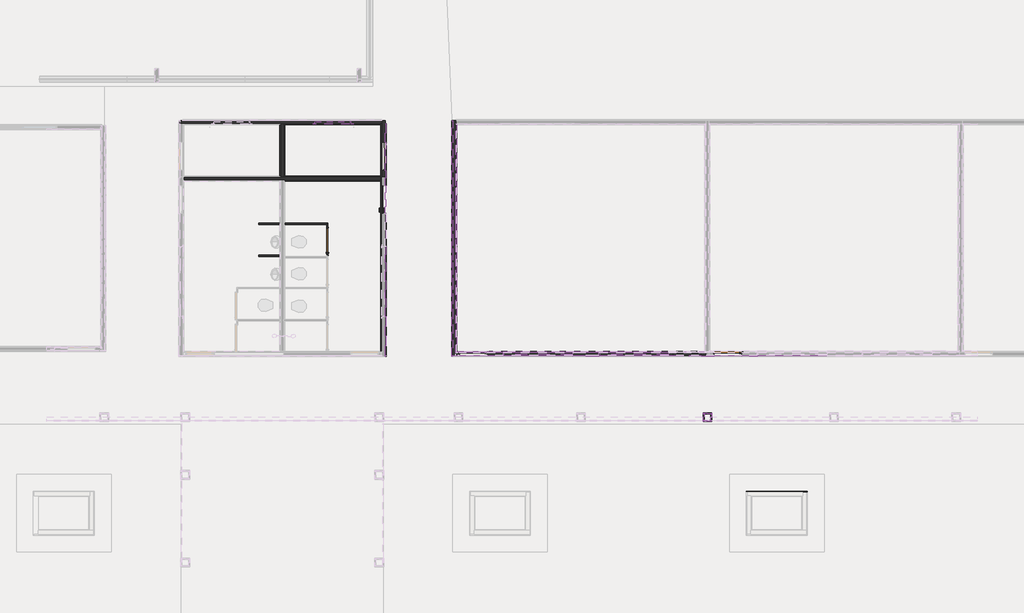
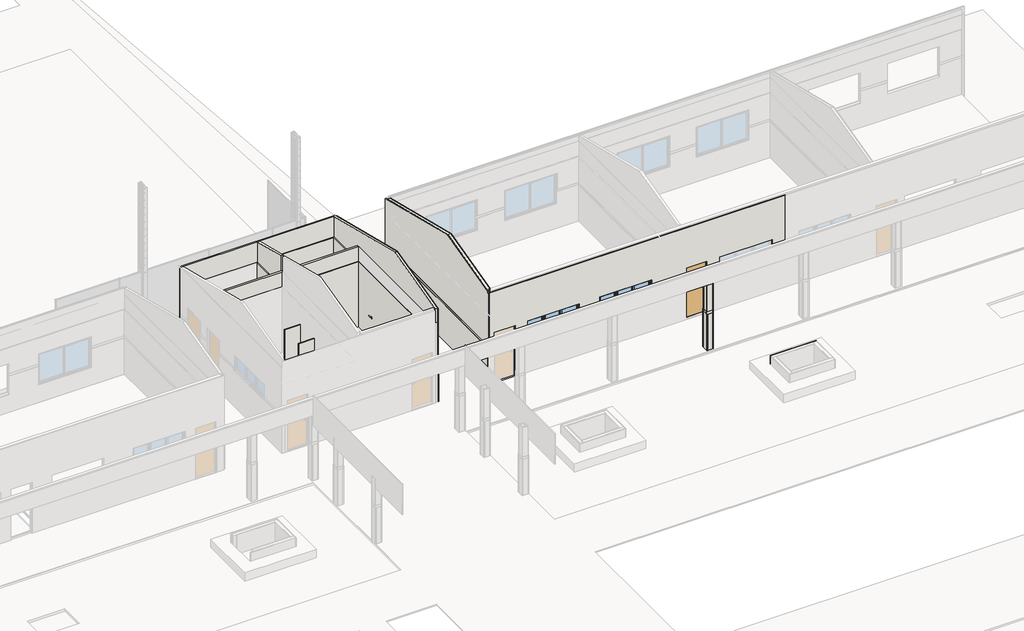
# One storey, part 16 of 28: 45 walls, 5 doors, 3 windows.
"""IFC4 building model written with IfcOpenShell, lengths in millimetres."""

from ifc_helpers import new_model, si_unit, frame, origin, place, context, project, spatial, polyline, outline, extrude, faceted_brep, transform, mapped, element, save
from components import door_29cd268e, door_1a2d8e3b, door_95b59213, pf15_l82cm_686caa18, pm71_l82cm_d3679378, window_1x60_2e2a47e2, window_2x60x220_bcaba8dd

model = new_model("IFC4")

# Units and contexts
model_context = context("Model", 3, world=origin())
ifc_project = project(units=[si_unit("LENGTHUNIT", "METRE", prefix="MILLI")], contexts=[model_context])

# Site, building, storey
site = spatial("IfcSite", under=ifc_project)
building = spatial("IfcBuilding", under=site)
storey = spatial("IfcBuildingStorey", under=building, Name="Térreo", Elevation=0.0)

# Doors
placement = place(None, origin())
door_shape = door_29cd268e(model_context)
element("IfcDoor", 1, ObjectType="FDE_RP02_Reforço : FDE_RP02_Reforço", at=placement, inside=storey, context=model_context, shape_type="MappedRepresentation", body=[
    mapped(door_shape, transform((-28005.0, 25324.0, 1165.0), x_axis=(0.0, 1.0, 0.0), y_axis=(-1.0, 0.0, 0.0), z_axis=(0.0, 0.0, 1.0))),
])
door_2_shape = door_1a2d8e3b(model_context)
element("IfcDoor", 2, ObjectType="FDE_PM_PortaBoxe : PM74_PortaBoxe_L0,62m", at=placement, inside=storey, context=model_context, shape_type="MappedRepresentation", body=[
    mapped(door_2_shape, transform((-29661.9219368, 24439.999998, 220.0), x_axis=(0.0, 1.0, 0.0), y_axis=(-1.0, 0.0, 0.0), z_axis=(0.0, 0.0, 1.0))),
])
door_3_shape = door_95b59213(model_context)
element("IfcDoor", 3, ObjectType="FDE_SO_Soleiras1 : SO14_SoleiraRampadaDesnívelAté2cm_L=14cm_Cimentado 2", at=placement, inside=storey, context=model_context, shape_type="MappedRepresentation", body=[
    mapped(door_3_shape, transform((-17779.0, 21100.0, 220.0), x_axis=(-1.0, 0.0, 0.0), y_axis=(0.0, -1.0, 0.0), z_axis=(0.0, 0.0, 1.0))),
])
pf15_l82cm_shape = pf15_l82cm_686caa18(model_context)
element("IfcDoor", 4, ObjectType="FDE_PF15_PF16_PF17_PortaemChapadeFerro : PF15_L82cm", at=placement, inside=storey, context=model_context, shape_type="MappedRepresentation", body=[
    mapped(pf15_l82cm_shape, transform((-17779.0, 21105.0, 220.0), x_axis=(-1.0, 0.0, 0.0), y_axis=(0.0, -1.0, 0.0), z_axis=(0.0, 0.0, 1.0))),
])
pm71_l82cm_shape = pm71_l82cm_d3679378(model_context)
element("IfcDoor", 5, ObjectType="FDE_PM70_PM71_PM72_PortadeMadeiraSarrafeada_BatenteMetálico : PM71_L82cm", at=placement, inside=storey, context=model_context, shape_type="MappedRepresentation", body=[
    mapped(pm71_l82cm_shape, transform((-27975.0, 25679.0, 115.0), x_axis=(0.0, 1.0, 0.0), y_axis=(-1.0, 0.0, 0.0), z_axis=(0.0, 0.0, 1.0))),
])

# Walls
element("IfcWall", 6, ObjectType="FDE_S712_AlvenariadeTijoloCerâmico/Baiano_Alvenaria_9cm - Existente", at=placement, inside=storey, context=model_context, shape_type="Brep", body=[
    faceted_brep([(-25830.0, 21060.0, 3500.0), (-25830.0, 21060.0, 0.0), (-25830.0, 21150.0, 0.0), (-25830.0, 27930.0, 0.0), (-25830.0, 28020.0, 0.0), (-25830.0, 28020.0, 3500.0), (-25830.0, 27930.0, 3500.0), (-25830.0, 21150.0, 3500.0), (-25920.0, 21060.0, 0.0), (-25920.0, 21060.0, 1731.0528047), (-25920.0, 21060.0, 1824.9435125), (-25920.0, 21060.0, 3500.0), (-25920.0, 28020.0, 3500.0), (-25920.0, 28020.0, 0.0)], [[[0, 1, 2, 3, 4, 5, 6, 7]], [[8, 9, 10, 11, 12, 13]], [[4, 3, 2, 1, 8, 13]], [[0, 7, 6, 5, 12, 11]], [[5, 4, 13, 12]], [[0, 11, 10, 9, 8, 1]]]),
])
element("IfcWall", 7, ObjectType="FDE_S712_AlvenariadeTijoloCerâmico/Baiano_Alvenaria_9cm - Existente", at=placement, inside=storey, context=model_context, shape_type="Brep", body=[
    faceted_brep([(-18425.0, 21150.0, 0.0), (-25830.0, 21150.0, 0.0), (-25830.0, 21150.0, 3500.0), (-18425.0, 21150.0, 3500.0), (-19521.0, 21150.0, 1665.0), (-19521.0, 21150.0, 2335.0), (-21591.0, 21150.0, 2335.0), (-21591.0, 21150.0, 1665.0), (-22361.0, 21150.0, 1665.0), (-22361.0, 21150.0, 2335.0), (-24431.0, 21150.0, 2335.0), (-24431.0, 21150.0, 1665.0), (-25730.0, 21150.0, 2312.0), (-25730.0, 21150.0, 200.0), (-24896.0, 21150.0, 200.0), (-24896.0, 21150.0, 2312.0), (-18565.0, 21150.0, 215.0), (-18565.0, 21150.0, 2327.0), (-19399.0, 21150.0, 2327.0), (-19399.0, 21150.0, 215.0), (-25830.0, 21060.0, 0.0), (-18425.0, 21060.0, 0.0), (-18425.0, 21060.0, 3500.0), (-25830.0, 21060.0, 3500.0), (-19521.0, 21060.0, 2335.0), (-19521.0, 21060.0, 1824.9435125), (-19521.0, 21060.0, 1665.0), (-21591.0, 21060.0, 1665.0), (-21591.0, 21060.0, 1824.9435125), (-21591.0, 21060.0, 2335.0), (-22361.0, 21060.0, 2335.0), (-22361.0, 21060.0, 1824.9435125), (-22361.0, 21060.0, 1665.0), (-24431.0, 21060.0, 1665.0), (-24431.0, 21060.0, 1824.9435125), (-24431.0, 21060.0, 2335.0), (-25730.0, 21060.0, 200.0), (-25730.0, 21060.0, 1824.9435125), (-25730.0, 21060.0, 2312.0), (-24896.0, 21060.0, 2312.0), (-24896.0, 21060.0, 1824.9435125), (-24896.0, 21060.0, 200.0), (-18565.0, 21060.0, 2327.0), (-18565.0, 21060.0, 215.0), (-19399.0, 21060.0, 215.0), (-19399.0, 21060.0, 2327.0)], [[[0, 1, 2, 3], [4, 5, 6, 7], [8, 9, 10, 11], [12, 13, 14, 15], [16, 17, 18, 19]], [[20, 21, 22, 23], [24, 25, 26, 27, 28, 29], [30, 31, 32, 33, 34, 35], [36, 37, 38, 39, 40, 41], [42, 43, 44, 45]], [[1, 0, 21, 20]], [[3, 2, 23, 22]], [[0, 3, 22, 21]], [[16, 43, 42, 17]], [[17, 42, 45, 18]], [[18, 45, 44, 19]], [[43, 16, 19, 44]], [[24, 5, 4, 26, 25]], [[5, 24, 29, 6]], [[6, 29, 28, 27, 7]], [[7, 27, 26, 4]], [[8, 32, 31, 30, 9]], [[9, 30, 35, 10]], [[10, 35, 34, 33, 11]], [[32, 8, 11, 33]], [[36, 13, 12, 38, 37]], [[38, 12, 15, 39]], [[39, 15, 14, 41, 40]], [[13, 36, 41, 14]], [[1, 20, 23, 2]]]),
])
element("IfcWall", 8, ObjectType="FDE_S712_AlvenariadeTijoloCerâmico/Baiano_Alvenaria_9cm - Existente", at=placement, inside=storey, context=model_context, shape_type="Brep", body=[
    faceted_brep([(-33930.0, 26255.0, 0.0), (-31020.0, 26255.0, 0.0), (-30930.0, 26255.0, 0.0), (-28020.0, 26255.0, 0.0), (-28020.0, 26255.0, 3500.0), (-30930.0, 26255.0, 3500.0), (-31020.0, 26255.0, 3500.0), (-33930.0, 26255.0, 3500.0), (-33930.0, 26345.0, 0.0), (-33930.0, 26345.0, 3500.0), (-28020.0, 26345.0, 3500.0), (-28020.0, 26345.0, 0.0)], [[[0, 1, 2, 3, 4, 5, 6, 7]], [[8, 9, 10, 11]], [[3, 2, 1, 0, 8, 11]], [[7, 6, 5, 4, 10, 9]], [[0, 7, 9, 8]], [[4, 3, 11, 10]]]),
])
element("IfcWall", 9, ObjectType="FDE_S712_AlvenariadeTijoloCerâmico/Baiano_Alvenaria_9cm - Existente", at=placement, inside=storey, context=model_context, shape_type="SweptSolid", body=[
    extrude(outline(polyline([(21150.0, 0.0), (21150.0, 4093.692274), (23811.6315073, 4759.1001508), (27930.0, 3729.5080277), (27930.0, 0.0), (21150.0, 0.0)])), frame((-25920.0, 0.0, 0.0), z_axis=(1.0, 0.0, 0.0), x_axis=(0.0, 1.0, 0.0)), (0.0, 0.0, 1.0), 90.0),
])
element("IfcWall", 10, ObjectType="FDE_S712_AlvenariadeTijoloCerâmico/Baiano_Alvenaria_9cm - Existente", at=placement, inside=storey, context=model_context, shape_type="Brep", body=[
    faceted_brep([(-34020.0, 27930.0, 0.0), (-33930.0, 27930.0, 0.0), (-31020.0, 27930.0, 0.0), (-30930.0, 27930.0, 0.0), (-28020.0, 27930.0, 0.0), (-28020.0, 27930.0, 3729.5080277), (-30930.0, 27930.0, 3729.5080277), (-31020.0, 27930.0, 3729.5080277), (-33930.0, 27930.0, 3729.5080277), (-34020.0, 27930.0, 3729.5080277), (-30010.0, 27930.0, 1665.0), (-30010.0, 27930.0, 2335.0), (-28940.0, 27930.0, 2335.0), (-28940.0, 27930.0, 1665.0), (-33010.0, 27930.0, 1665.0), (-33010.0, 27930.0, 2335.0), (-31940.0, 27930.0, 2335.0), (-31940.0, 27930.0, 1665.0), (-28020.0, 28020.0, 0.0), (-34020.0, 28020.0, 0.0), (-34020.0, 28020.0, 3693.3295728), (-34020.0, 28020.0, 3707.0080277), (-28020.0, 28020.0, 3707.0080277), (-28020.0, 28020.0, 1824.9435125), (-28020.0, 28020.0, 1731.0528047), (-30010.0, 28020.0, 2335.0), (-30010.0, 28020.0, 1824.9435125), (-30010.0, 28020.0, 1731.0528047), (-30010.0, 28020.0, 1665.0), (-28940.0, 28020.0, 1665.0), (-28940.0, 28020.0, 1731.0528047), (-28940.0, 28020.0, 1824.9435125), (-28940.0, 28020.0, 2335.0), (-33010.0, 28020.0, 2335.0), (-33010.0, 28020.0, 1824.9435125), (-33010.0, 28020.0, 1731.0528047), (-33010.0, 28020.0, 1665.0), (-31940.0, 28020.0, 1665.0), (-31940.0, 28020.0, 1731.0528047), (-31940.0, 28020.0, 1824.9435125), (-31940.0, 28020.0, 2335.0)], [[[0, 1, 2, 3, 4, 5, 6, 7, 8, 9], [10, 11, 12, 13], [14, 15, 16, 17]], [[18, 19, 20, 21, 22, 23, 24], [25, 26, 27, 28, 29, 30, 31, 32], [33, 34, 35, 36, 37, 38, 39, 40]], [[4, 3, 2, 1, 0, 19, 18]], [[9, 8, 7, 6, 5, 22, 21]], [[10, 28, 27, 26, 25, 11]], [[11, 25, 32, 12]], [[12, 32, 31, 30, 29, 13]], [[28, 10, 13, 29]], [[14, 36, 35, 34, 33, 15]], [[15, 33, 40, 16]], [[16, 40, 39, 38, 37, 17]], [[36, 14, 17, 37]], [[19, 0, 9, 21, 20]], [[4, 18, 24, 23, 22, 5]]]),
])
element("IfcWall", 11, ObjectType="FDE_S712_AlvenariadeTijoloCerâmico/Baiano_Alvenaria_9cm - Existente", at=placement, inside=storey, context=model_context, shape_type="Brep", body=[
    faceted_brep([(-31020.0, 27930.0, 0.0), (-31020.0, 26345.0, 0.0), (-31020.0, 26345.0, 4125.7580277), (-31020.0, 27930.0, 3729.5080277), (-31020.0, 27930.0, 2900.0), (-31020.0, 27930.0, 200.0), (-30930.0, 27930.0, 0.0), (-30930.0, 27930.0, 220.0), (-30930.0, 27930.0, 2900.0), (-30930.0, 27930.0, 3729.5080277), (-30930.0, 26345.0, 4125.7580277), (-30930.0, 26345.0, 0.0)], [[[0, 1, 2, 3, 4, 5]], [[6, 7, 8, 9, 10, 11]], [[1, 0, 6, 11]], [[0, 5, 4, 3, 9, 8, 7, 6]], [[3, 2, 10, 9]], [[2, 1, 11, 10]]]),
])
element("IfcWall", 12, ObjectType="FDE_S712_AlvenariadeTijoloCerâmico/Baiano_Alvenaria_9cm - Existente", at=placement, inside=storey, context=model_context, shape_type="Brep", body=[
    faceted_brep([(-28020.0, 28020.0, 0.0), (-28020.0, 27930.0, 0.0), (-28020.0, 21150.0, 0.0), (-28020.0, 21150.0, 131.0), (-28020.0, 21030.0, 131.0), (-28020.0, 21030.0, 1731.0528047), (-28020.0, 21045.0, 1731.0528047), (-28020.0, 21045.0, 4067.442274), (-28020.0, 23811.6315073, 4759.1001508), (-28020.0, 27930.0, 3729.5080277), (-28020.0, 28020.0, 3707.0080277), (-28020.0, 26548.0, 2327.0), (-28020.0, 26548.0, 215.0), (-28020.0, 27382.0, 215.0), (-28020.0, 27382.0, 2327.0), (-28020.0, 26096.0, 115.0), (-28020.0, 26096.0, 2227.0), (-28020.0, 25262.0, 2227.0), (-28020.0, 25262.0, 115.0), (-28020.0, 24285.0, 1665.0), (-28020.0, 24285.0, 2335.0), (-28020.0, 22215.0, 2335.0), (-28020.0, 22215.0, 1665.0), (-27930.0, 21150.0, 0.0), (-27930.0, 27930.0, 0.0), (-27930.0, 28020.0, 0.0), (-27930.0, 28020.0, 3707.0080277), (-27930.0, 27930.0, 3729.5080277), (-27930.0, 23811.6315073, 4759.1001508), (-27930.0, 21045.0, 4067.442274), (-27930.0, 21045.0, 1824.9435125), (-27930.0, 21045.0, 1731.0528047), (-27930.0, 21030.0, 1731.0528047), (-27930.0, 21030.0, 131.0), (-27930.0, 21150.0, 131.0), (-27930.0, 26548.0, 215.0), (-27930.0, 26548.0, 1700.0), (-27930.0, 26548.0, 1731.0528047), (-27930.0, 26548.0, 1824.9435125), (-27930.0, 26548.0, 2327.0), (-27930.0, 27382.0, 2327.0), (-27930.0, 27382.0, 1824.9435125), (-27930.0, 27382.0, 1731.0528047), (-27930.0, 27382.0, 1700.0), (-27930.0, 27382.0, 215.0), (-27930.0, 26096.0, 2227.0), (-27930.0, 26096.0, 1824.9435125), (-27930.0, 26096.0, 1731.0528047), (-27930.0, 26096.0, 1700.0), (-27930.0, 26096.0, 115.0), (-27930.0, 25262.0, 115.0), (-27930.0, 25262.0, 1700.0), (-27930.0, 25262.0, 1731.0528047), (-27930.0, 25262.0, 1824.9435125), (-27930.0, 25262.0, 2227.0), (-27930.0, 24285.0, 2335.0), (-27930.0, 24285.0, 1824.9435125), (-27930.0, 24285.0, 1731.0528047), (-27930.0, 24285.0, 1700.0), (-27930.0, 24285.0, 1665.0), (-27930.0, 22215.0, 1665.0), (-27930.0, 22215.0, 1700.0), (-27930.0, 22215.0, 1731.0528047), (-27930.0, 22215.0, 1824.9435125), (-27930.0, 22215.0, 2335.0)], [[[0, 1, 2, 3, 4, 5, 6, 7, 8, 9, 10], [11, 12, 13, 14], [15, 16, 17, 18], [19, 20, 21, 22]], [[23, 24, 25, 26, 27, 28, 29, 30, 31, 32, 33, 34], [35, 36, 37, 38, 39, 40, 41, 42, 43, 44], [45, 46, 47, 48, 49, 50, 51, 52, 53, 54], [55, 56, 57, 58, 59, 60, 61, 62, 63, 64]], [[2, 1, 0, 25, 24, 23]], [[35, 12, 11, 39, 38, 37, 36]], [[39, 11, 14, 40]], [[13, 44, 43, 42, 41, 40, 14]], [[12, 35, 44, 13]], [[15, 49, 48, 47, 46, 45, 16]], [[16, 45, 54, 17]], [[17, 54, 53, 52, 51, 50, 18]], [[49, 15, 18, 50]], [[26, 10, 9, 8, 28, 27]], [[7, 29, 28, 8]], [[19, 59, 58, 57, 56, 55, 20]], [[20, 55, 64, 21]], [[21, 64, 63, 62, 61, 60, 22]], [[59, 19, 22, 60]], [[4, 3, 34, 33]], [[2, 23, 34, 3]], [[10, 26, 25, 0]], [[31, 6, 5, 32]], [[29, 7, 6, 31, 30]], [[4, 33, 32, 5]]]),
])
element("IfcWall", 13, ObjectType="Revestimento Cerâmico 10x10cm", at=placement, inside=storey, context=model_context, shape_type="Brep", body=[
    faceted_brep([(-18460.0, 21180.0, 0.0), (-25800.0, 21180.0, 0.0), (-25830.0, 21180.0, 0.0), (-25830.0, 21180.0, 1730.538599), (-25800.0, 21180.0, 1730.538599), (-25730.0, 21180.0, 1730.538599), (-25730.0, 21180.0, 200.0), (-24896.0, 21180.0, 200.0), (-24896.0, 21180.0, 1730.538599), (-24431.0, 21180.0, 1730.538599), (-24431.0, 21180.0, 1665.0), (-22361.0, 21180.0, 1665.0), (-22361.0, 21180.0, 1730.538599), (-21591.0, 21180.0, 1730.538599), (-21591.0, 21180.0, 1665.0), (-19521.0, 21180.0, 1665.0), (-19521.0, 21180.0, 1730.538599), (-18460.0, 21180.0, 1730.538599), (-25830.0, 21150.0, 0.0), (-18460.0, 21150.0, 0.0), (-18460.0, 21150.0, 1730.538599), (-19521.0, 21150.0, 1730.538599), (-19521.0, 21150.0, 1665.0), (-21591.0, 21150.0, 1665.0), (-21591.0, 21150.0, 1730.538599), (-22361.0, 21150.0, 1730.538599), (-22361.0, 21150.0, 1665.0), (-24431.0, 21150.0, 1665.0), (-24431.0, 21150.0, 1730.538599), (-24896.0, 21150.0, 1730.538599), (-24896.0, 21150.0, 200.0), (-25730.0, 21150.0, 200.0), (-25730.0, 21150.0, 1730.538599), (-25830.0, 21150.0, 1730.538599)], [[[0, 1, 2, 3, 4, 5, 6, 7, 8, 9, 10, 11, 12, 13, 14, 15, 16, 17]], [[18, 19, 20, 21, 22, 23, 24, 25, 26, 27, 28, 29, 30, 31, 32, 33]], [[2, 1, 0, 19, 18]], [[20, 17, 16, 21]], [[3, 33, 32, 5, 4]], [[8, 29, 28, 9]], [[24, 13, 12, 25]], [[0, 17, 20, 19]], [[3, 2, 18, 33]], [[31, 6, 5, 32]], [[7, 30, 29, 8]], [[6, 31, 30, 7]], [[15, 22, 21, 16]], [[23, 14, 13, 24]], [[22, 15, 14, 23]], [[11, 26, 25, 12]], [[27, 10, 9, 28]], [[26, 11, 10, 27]]]),
])
element("IfcWall", 14, ObjectType="Revestimento Cerâmico 10x10cm", at=placement, inside=storey, context=model_context, shape_type="Brep", body=[
    faceted_brep([(-25800.0, 21180.0, 0.0), (-25800.0, 27900.0, 0.0), (-25800.0, 27930.0, 0.0), (-25800.0, 27930.0, 1730.538599), (-25800.0, 27900.0, 1730.538599), (-25800.0, 21180.0, 1730.538599), (-25830.0, 21180.0, 0.0), (-25830.0, 21180.0, 1730.538599), (-25830.0, 27930.0, 1730.538599), (-25830.0, 27930.0, 0.0)], [[[0, 1, 2, 3, 4, 5]], [[6, 7, 8, 9]], [[2, 1, 0, 6, 9]], [[5, 4, 3, 8, 7]], [[0, 5, 7, 6]], [[3, 2, 9, 8]]]),
])
element("IfcWall", 15, ObjectType="Pardes Internas_Pintura Acrílica Branco Neve 2", at=placement, inside=storey, context=model_context, shape_type="Brep", body=[
    faceted_brep([(-25799.0, 21181.0, 2900.8), (-18425.0, 21181.0, 2900.8), (-18425.0, 21181.0, 2900.0), (-18425.0, 21181.0, 1824.9435125), (-18456.0, 21181.0, 1824.9435125), (-19521.0, 21181.0, 1824.9435125), (-19521.0, 21181.0, 2335.0), (-21591.0, 21181.0, 2335.0), (-21591.0, 21181.0, 1824.9435125), (-22361.0, 21181.0, 1824.9435125), (-22361.0, 21181.0, 2335.0), (-24431.0, 21181.0, 2335.0), (-24431.0, 21181.0, 1824.9435125), (-24896.0, 21181.0, 1824.9435125), (-24896.0, 21181.0, 2312.0), (-25730.0, 21181.0, 2312.0), (-25730.0, 21181.0, 1824.9435125), (-25799.0, 21181.0, 1824.9435125), (-18425.0, 21150.0, 2900.8), (-25799.0, 21150.0, 2900.8), (-25799.0, 21150.0, 1824.9435125), (-25730.0, 21150.0, 1824.9435125), (-25730.0, 21150.0, 2312.0), (-24896.0, 21150.0, 2312.0), (-24896.0, 21150.0, 1824.9435125), (-24431.0, 21150.0, 1824.9435125), (-24431.0, 21150.0, 2335.0), (-22361.0, 21150.0, 2335.0), (-22361.0, 21150.0, 1824.9435125), (-21591.0, 21150.0, 1824.9435125), (-21591.0, 21150.0, 2335.0), (-19521.0, 21150.0, 2335.0), (-19521.0, 21150.0, 1824.9435125), (-18425.0, 21150.0, 1824.9435125)], [[[0, 1, 2, 3, 4, 5, 6, 7, 8, 9, 10, 11, 12, 13, 14, 15, 16, 17]], [[18, 19, 20, 21, 22, 23, 24, 25, 26, 27, 28, 29, 30, 31, 32, 33]], [[3, 33, 32, 5, 4]], [[20, 17, 16, 21]], [[24, 13, 12, 25]], [[8, 29, 28, 9]], [[1, 0, 19, 18]], [[0, 17, 20, 19]], [[3, 2, 1, 18, 33]], [[15, 22, 21, 16]], [[22, 15, 14, 23]], [[23, 14, 13, 24]], [[31, 6, 5, 32]], [[6, 31, 30, 7]], [[7, 30, 29, 8]], [[27, 10, 9, 28]], [[10, 27, 26, 11]], [[11, 26, 25, 12]]]),
])
element("IfcWall", 16, ObjectType="Faixa - Revestimento Cerâmico Verde Folha 10x10cm", at=placement, inside=storey, context=model_context, shape_type="Brep", body=[
    faceted_brep([(-25830.0, 27930.0, 1731.0528047), (-25830.0, 21165.0, 1731.0528047), (-25830.0, 21165.0, 1824.9435125), (-25830.0, 27930.0, 1824.9435125), (-25800.0, 27930.0, 1731.0528047), (-25800.0, 27930.0, 1824.9435125), (-25800.0, 27900.0, 1824.9435125), (-25800.0, 21165.0, 1824.9435125), (-25800.0, 21165.0, 1731.0528047), (-25800.0, 27900.0, 1731.0528047)], [[[0, 1, 2, 3]], [[4, 5, 6, 7, 8, 9]], [[1, 0, 4, 9, 8]], [[2, 1, 8, 7]], [[3, 2, 7, 6, 5]], [[0, 3, 5, 4]]]),
])
element("IfcWall", 17, ObjectType="Pardes Internas_Pintura Acrílica Branco Neve 2", at=placement, inside=storey, context=model_context, shape_type="Brep", body=[
    faceted_brep([(-25830.0, 27930.0, 1824.9435125), (-25830.0, 21150.0, 1824.9435125), (-25830.0, 21150.0, 4093.692274), (-25830.0, 23811.6315073, 4759.1001508), (-25830.0, 27930.0, 3729.5080277), (-25799.0, 27930.0, 1824.9435125), (-25799.0, 27930.0, 2900.0), (-25799.0, 27930.0, 3729.5080277), (-25799.0, 23811.6315073, 4759.1001508), (-25799.0, 21150.0, 4093.692274), (-25799.0, 21150.0, 2900.8), (-25799.0, 21150.0, 1824.9435125), (-25799.0, 21181.0, 1824.9435125), (-25799.0, 27899.0, 1824.9435125)], [[[0, 1, 2, 3, 4]], [[5, 6, 7, 8, 9, 10, 11, 12, 13]], [[1, 0, 5, 13, 12, 11]], [[4, 3, 8, 7]], [[3, 2, 9, 8]], [[2, 1, 11, 10, 9]], [[0, 4, 7, 6, 5]]]),
])
element("IfcWall", 18, ObjectType="Pardes Externas_Pintura Acrílica Branco Neve", at=placement, inside=storey, context=model_context, shape_type="Brep", body=[
    faceted_brep([(-14315.0, 21039.0, 1824.9435125), (-14315.0, 21039.0, 4013.8205229), (-25920.0, 21039.0, 4013.8205229), (-25920.0, 21039.0, 1824.9435125), (-25730.0, 21039.0, 1824.9435125), (-25730.0, 21039.0, 2312.0), (-24896.0, 21039.0, 2312.0), (-24896.0, 21039.0, 1824.9435125), (-24431.0, 21039.0, 1824.9435125), (-24431.0, 21039.0, 2335.0), (-22361.0, 21039.0, 2335.0), (-22361.0, 21039.0, 1824.9435125), (-21591.0, 21039.0, 1824.9435125), (-21591.0, 21039.0, 2335.0), (-19521.0, 21039.0, 2335.0), (-19521.0, 21039.0, 1824.9435125), (-18196.0, 21039.0, 1824.9435125), (-18196.0, 21039.0, 2332.0), (-17362.0, 21039.0, 2332.0), (-17362.0, 21039.0, 1824.9435125), (-16897.0, 21039.0, 1824.9435125), (-16897.0, 21039.0, 2335.0), (-14827.0, 21039.0, 2335.0), (-14827.0, 21039.0, 1824.9435125), (-14315.0, 21060.0, 4013.8205229), (-14315.0, 21060.0, 1824.9435125), (-14827.0, 21060.0, 1824.9435125), (-14827.0, 21060.0, 2335.0), (-16897.0, 21060.0, 2335.0), (-16897.0, 21060.0, 1824.9435125), (-17362.0, 21060.0, 1824.9435125), (-17362.0, 21060.0, 2332.0), (-18196.0, 21060.0, 2332.0), (-18196.0, 21060.0, 1824.9435125), (-18920.0, 21060.0, 1824.9435125), (-19521.0, 21060.0, 1824.9435125), (-19521.0, 21060.0, 2335.0), (-21591.0, 21060.0, 2335.0), (-21591.0, 21060.0, 1824.9435125), (-22361.0, 21060.0, 1824.9435125), (-22361.0, 21060.0, 2335.0), (-24431.0, 21060.0, 2335.0), (-24431.0, 21060.0, 1824.9435125), (-24896.0, 21060.0, 1824.9435125), (-24896.0, 21060.0, 2312.0), (-25730.0, 21060.0, 2312.0), (-25730.0, 21060.0, 1824.9435125), (-25920.0, 21060.0, 1824.9435125), (-25920.0, 21060.0, 4013.8205229)], [[[0, 1, 2, 3, 4, 5, 6, 7, 8, 9, 10, 11, 12, 13, 14, 15, 16, 17, 18, 19, 20, 21, 22, 23]], [[24, 25, 26, 27, 28, 29, 30, 31, 32, 33, 34, 35, 36, 37, 38, 39, 40, 41, 42, 43, 44, 45, 46, 47, 48]], [[4, 3, 47, 46]], [[25, 0, 23, 26]], [[7, 43, 42, 8]], [[11, 39, 38, 12]], [[33, 16, 15, 35, 34]], [[19, 30, 29, 20]], [[1, 0, 25, 24]], [[2, 1, 24, 48]], [[45, 5, 4, 46]], [[5, 45, 44, 6]], [[6, 44, 43, 7]], [[32, 17, 16, 33]], [[17, 32, 31, 18]], [[18, 31, 30, 19]], [[10, 40, 39, 11]], [[40, 10, 9, 41]], [[41, 9, 8, 42]], [[14, 36, 35, 15]], [[36, 14, 13, 37]], [[37, 13, 12, 38]], [[22, 27, 26, 23]], [[27, 22, 21, 28]], [[28, 21, 20, 29]], [[2, 48, 47, 3]]]),
])
element("IfcWall", 19, ObjectType="Revestimento Cerâmico 10x10cm", at=placement, inside=storey, context=model_context, shape_type="Brep", body=[
    faceted_brep([(-27900.0, 21150.0, 0.0), (-27900.0, 27930.0, 0.0), (-27900.0, 27930.0, 1731.0528047), (-27900.0, 27382.0, 1731.0528047), (-27900.0, 27382.0, 215.0), (-27900.0, 26548.0, 215.0), (-27900.0, 26548.0, 1731.0528047), (-27900.0, 26096.0, 1731.0528047), (-27900.0, 26096.0, 115.0), (-27900.0, 25262.0, 115.0), (-27900.0, 25262.0, 1731.0528047), (-27900.0, 24285.0, 1731.0528047), (-27900.0, 24285.0, 1665.0), (-27900.0, 22215.0, 1665.0), (-27900.0, 22215.0, 1731.0528047), (-27900.0, 21030.0, 1731.0528047), (-27900.0, 21030.0, 131.0), (-27900.0, 21150.0, 131.0), (-27930.0, 27930.0, 0.0), (-27930.0, 21150.0, 0.0), (-27930.0, 21150.0, 131.0), (-27930.0, 21030.0, 131.0), (-27930.0, 21030.0, 1731.0528047), (-27930.0, 21045.0, 1731.0528047), (-27930.0, 22215.0, 1731.0528047), (-27930.0, 22215.0, 1665.0), (-27930.0, 24285.0, 1665.0), (-27930.0, 24285.0, 1731.0528047), (-27930.0, 25262.0, 1731.0528047), (-27930.0, 25262.0, 115.0), (-27930.0, 26096.0, 115.0), (-27930.0, 26096.0, 1731.0528047), (-27930.0, 26548.0, 1731.0528047), (-27930.0, 26548.0, 215.0), (-27930.0, 27382.0, 215.0), (-27930.0, 27382.0, 1731.0528047), (-27930.0, 27930.0, 1731.0528047), (-27909.0, 21030.0, 1731.0528047)], [[[0, 1, 2, 3, 4, 5, 6, 7, 8, 9, 10, 11, 12, 13, 14, 15, 16, 17]], [[18, 19, 20, 21, 22, 23, 24, 25, 26, 27, 28, 29, 30, 31, 32, 33, 34, 35, 36]], [[1, 0, 19, 18]], [[15, 14, 24, 23, 22, 37]], [[27, 11, 10, 28]], [[3, 2, 36, 35]], [[6, 32, 31, 7]], [[26, 12, 11, 27]], [[13, 25, 24, 14]], [[12, 26, 25, 13]], [[5, 33, 32, 6]], [[34, 4, 3, 35]], [[33, 5, 4, 34]], [[30, 8, 7, 31]], [[9, 29, 28, 10]], [[8, 30, 29, 9]], [[1, 18, 36, 2]], [[21, 20, 17, 16]], [[0, 17, 20, 19]], [[15, 37, 22, 21, 16]]]),
])
element("IfcWall", 20, ObjectType="Pardes Externas_Pintura Acrílica Branco Neve", at=placement, inside=storey, context=model_context, shape_type="Brep", body=[
    faceted_brep([(-27909.0, 27382.0, 1700.0), (-27909.0, 27930.0, 1700.0), (-27909.0, 27930.0, 3729.5080277), (-27909.0, 23811.6315073, 4759.1001508), (-27909.0, 21045.0, 4067.442274), (-27909.0, 21045.0, 1824.9435125), (-27909.0, 21030.0, 1824.9435125), (-27909.0, 21030.0, 1731.0528047), (-27909.0, 21060.0, 1731.0528047), (-27909.0, 21060.0, 1700.0), (-27909.0, 22215.0, 1700.0), (-27909.0, 22215.0, 2335.0), (-27909.0, 24285.0, 2335.0), (-27909.0, 24285.0, 1700.0), (-27909.0, 25262.0, 1700.0), (-27909.0, 25262.0, 2227.0), (-27909.0, 26096.0, 2227.0), (-27909.0, 26096.0, 1700.0), (-27909.0, 26548.0, 1700.0), (-27909.0, 26548.0, 2327.0), (-27909.0, 27382.0, 2327.0), (-27930.0, 27930.0, 1700.0), (-27930.0, 27382.0, 1700.0), (-27930.0, 27382.0, 2327.0), (-27930.0, 26548.0, 2327.0), (-27930.0, 26548.0, 1700.0), (-27930.0, 26096.0, 1700.0), (-27930.0, 26096.0, 2227.0), (-27930.0, 25262.0, 2227.0), (-27930.0, 25262.0, 1700.0), (-27930.0, 24285.0, 1700.0), (-27930.0, 24285.0, 2335.0), (-27930.0, 22215.0, 2335.0), (-27930.0, 22215.0, 1700.0), (-27930.0, 21060.0, 1700.0), (-27930.0, 21060.0, 1731.0528047), (-27930.0, 21030.0, 1731.0528047), (-27930.0, 21030.0, 1824.9435125), (-27930.0, 21045.0, 1824.9435125), (-27930.0, 21045.0, 3500.0), (-27930.0, 21045.0, 4067.442274), (-27930.0, 23811.6315073, 4759.1001508), (-27930.0, 27930.0, 3729.5080277)], [[[0, 1, 2, 3, 4, 5, 6, 7, 8, 9, 10, 11, 12, 13, 14, 15, 16, 17, 18, 19, 20]], [[21, 22, 23, 24, 25, 26, 27, 28, 29, 30, 31, 32, 33, 34, 35, 36, 37, 38, 39, 40, 41, 42]], [[1, 0, 22, 21]], [[25, 18, 17, 26]], [[29, 14, 13, 30]], [[9, 34, 33, 10]], [[24, 19, 18, 25]], [[19, 24, 23, 20]], [[20, 23, 22, 0]], [[16, 27, 26, 17]], [[27, 16, 15, 28]], [[28, 15, 14, 29]], [[12, 31, 30, 13]], [[31, 12, 11, 32]], [[32, 11, 10, 33]], [[40, 4, 3, 41]], [[3, 2, 42, 41]], [[1, 21, 42, 2]], [[36, 35, 8, 7]], [[5, 38, 37, 6]], [[4, 40, 39, 38, 5]], [[9, 8, 35, 34]], [[7, 6, 37, 36]]]),
])
element("IfcWall", 21, ObjectType="Pardes Externas_Pintura Acrílica Branco Neve", at=placement, inside=storey, context=model_context, shape_type="Brep", body=[
    faceted_brep([(-18496.0, 19330.0, 1794.0), (-18475.0, 19330.0, 1794.0), (-18275.0, 19330.0, 1794.0), (-18254.0, 19330.0, 1794.0), (-18254.0, 19330.0, 2900.0), (-18275.0, 19330.0, 2900.0), (-18475.0, 19330.0, 2900.0), (-18496.0, 19330.0, 2900.0), (-18496.0, 19351.0, 1794.0), (-18496.0, 19351.0, 2900.0), (-18254.0, 19351.0, 2900.0), (-18254.0, 19351.0, 1794.0)], [[[0, 1, 2, 3, 4, 5, 6, 7]], [[8, 9, 10, 11]], [[3, 2, 1, 0, 8, 11]], [[7, 6, 5, 4, 10, 9]], [[0, 7, 9, 8]], [[4, 3, 11, 10]]]),
])
element("IfcWall", 22, ObjectType="Revestimento Cerâmico 10x10cm", at=placement, inside=storey, context=model_context, shape_type="Brep", body=[
    faceted_brep([(-18505.0, 19330.0, 194.0), (-18475.0, 19330.0, 194.0), (-18275.0, 19330.0, 194.0), (-18245.0, 19330.0, 194.0), (-18245.0, 19330.0, 1694.0), (-18275.0, 19330.0, 1694.0), (-18475.0, 19330.0, 1694.0), (-18505.0, 19330.0, 1694.0), (-18505.0, 19360.0, 194.0), (-18505.0, 19360.0, 1694.0), (-18245.0, 19360.0, 1694.0), (-18245.0, 19360.0, 194.0)], [[[0, 1, 2, 3, 4, 5, 6, 7]], [[8, 9, 10, 11]], [[3, 2, 1, 0, 8, 11]], [[7, 6, 5, 4, 10, 9]], [[0, 7, 9, 8]], [[4, 3, 11, 10]]]),
])
element("IfcWall", 23, ObjectType="Revestimento Cerâmico 10x10cm", at=placement, inside=storey, context=model_context, shape_type="Brep", body=[
    faceted_brep([(-18475.0, 19100.0, 194.0), (-18475.0, 19130.0, 194.0), (-18475.0, 19330.0, 194.0), (-18475.0, 19330.0, 1694.0), (-18475.0, 19130.0, 1694.0), (-18475.0, 19100.0, 1694.0), (-18505.0, 19100.0, 194.0), (-18505.0, 19100.0, 1694.0), (-18505.0, 19330.0, 1694.0), (-18505.0, 19330.0, 194.0)], [[[0, 1, 2, 3, 4, 5]], [[6, 7, 8, 9]], [[2, 1, 0, 6, 9]], [[5, 4, 3, 8, 7]], [[3, 2, 9, 8]], [[0, 5, 7, 6]]]),
])
element("IfcWall", 24, ObjectType="Revestimento Cerâmico 10x10cm", at=placement, inside=storey, context=model_context, shape_type="Brep", body=[
    faceted_brep([(-18275.0, 19330.0, 194.0), (-18275.0, 19130.0, 194.0), (-18275.0, 19100.0, 194.0), (-18275.0, 19100.0, 1694.0), (-18275.0, 19130.0, 1694.0), (-18275.0, 19330.0, 1694.0), (-18245.0, 19330.0, 194.0), (-18245.0, 19330.0, 1694.0), (-18245.0, 19100.0, 1694.0), (-18245.0, 19100.0, 194.0)], [[[0, 1, 2, 3, 4, 5]], [[6, 7, 8, 9]], [[2, 1, 0, 6, 9]], [[5, 4, 3, 8, 7]], [[0, 5, 7, 6]], [[3, 2, 9, 8]]]),
])
element("IfcWall", 25, ObjectType="Revestimento Cerâmico 10x10cm", at=placement, inside=storey, context=model_context, shape_type="SweptSolid", body=[
    extrude(outline(polyline([(-18275.0, 19100.0), (-18475.0, 19100.0), (-18475.0, 19130.0), (-18275.0, 19130.0), (-18275.0, 19100.0)])), frame((0.0, 0.0, 194.0), z_axis=(0.0, 0.0, 1.0), x_axis=(1.0, 0.0, 0.0)), (0.0, 0.0, 1.0), 1500.0),
])
element("IfcWall", 26, ObjectType="Faixa - Revestimento Cerâmico Verde Folha 10x10cm", at=placement, inside=storey, context=model_context, shape_type="Brep", body=[
    faceted_brep([(-18505.0, 19330.0, 1694.0), (-18475.0, 19330.0, 1694.0), (-18275.0, 19330.0, 1694.0), (-18245.0, 19330.0, 1694.0), (-18245.0, 19330.0, 1794.0), (-18275.0, 19330.0, 1794.0), (-18475.0, 19330.0, 1794.0), (-18505.0, 19330.0, 1794.0), (-18505.0, 19360.0, 1694.0), (-18505.0, 19360.0, 1794.0), (-18245.0, 19360.0, 1794.0), (-18245.0, 19360.0, 1694.0)], [[[0, 1, 2, 3, 4, 5, 6, 7]], [[8, 9, 10, 11]], [[3, 2, 1, 0, 8, 11]], [[7, 6, 5, 4, 10, 9]], [[4, 3, 11, 10]], [[0, 7, 9, 8]]]),
])
element("IfcWall", 27, ObjectType="Faixa - Revestimento Cerâmico Verde Folha 10x10cm", at=placement, inside=storey, context=model_context, shape_type="Brep", body=[
    faceted_brep([(-18275.0, 19330.0, 1694.0), (-18275.0, 19130.0, 1694.0), (-18275.0, 19100.0, 1694.0), (-18275.0, 19100.0, 1794.0), (-18275.0, 19130.0, 1794.0), (-18275.0, 19330.0, 1794.0), (-18245.0, 19330.0, 1694.0), (-18245.0, 19330.0, 1794.0), (-18245.0, 19100.0, 1794.0), (-18245.0, 19100.0, 1694.0)], [[[0, 1, 2, 3, 4, 5]], [[6, 7, 8, 9]], [[2, 1, 0, 6, 9]], [[5, 4, 3, 8, 7]], [[0, 5, 7, 6]], [[3, 2, 9, 8]]]),
])
element("IfcWall", 28, ObjectType="Faixa - Revestimento Cerâmico Verde Folha 10x10cm", at=placement, inside=storey, context=model_context, shape_type="Brep", body=[
    faceted_brep([(-18505.0, 19100.0, 1694.0), (-18275.0, 19100.0, 1694.0), (-18275.0, 19100.0, 1794.0), (-18505.0, 19100.0, 1794.0), (-18505.0, 19130.0, 1694.0), (-18505.0, 19130.0, 1794.0), (-18475.0, 19130.0, 1794.0), (-18275.0, 19130.0, 1794.0), (-18275.0, 19130.0, 1694.0), (-18475.0, 19130.0, 1694.0), (-18275.0, 19109.0, 1794.0)], [[[0, 1, 2, 3]], [[4, 5, 6, 7, 8, 9]], [[1, 0, 4, 9, 8]], [[3, 2, 10, 7, 6, 5]], [[2, 1, 8, 7, 10]], [[0, 3, 5, 4]]]),
])
element("IfcWall", 29, ObjectType="Faixa - Revestimento Cerâmico Verde Folha 10x10cm", at=placement, inside=storey, context=model_context, shape_type="SweptSolid", body=[
    extrude(outline(polyline([(-18505.0, 19130.0), (-18505.0, 19330.0), (-18475.0, 19330.0), (-18475.0, 19130.0), (-18505.0, 19130.0)])), frame((0.0, 0.0, 1694.0), z_axis=(0.0, 0.0, 1.0), x_axis=(1.0, 0.0, 0.0)), (0.0, 0.0, 1.0), 100.0),
])
element("IfcWall", 30, ObjectType="Pardes Externas_Pintura Acrílica Branco Neve", at=placement, inside=storey, context=model_context, shape_type="SweptSolid", body=[
    extrude(outline(polyline([(-18275.0, 19109.0), (-18475.0, 19109.0), (-18475.0, 19130.0), (-18275.0, 19130.0), (-18275.0, 19109.0)])), frame((0.0, 0.0, 1794.0), z_axis=(0.0, 0.0, 1.0), x_axis=(1.0, 0.0, 0.0)), (0.0, 0.0, 1.0), 1106.0),
])
element("IfcWall", 31, ObjectType="Pardes Externas_Pintura Acrílica Branco Neve", at=placement, inside=storey, context=model_context, shape_type="Brep", body=[
    faceted_brep([(-18275.0, 19330.0, 1794.0), (-18275.0, 19130.0, 1794.0), (-18275.0, 19109.0, 1794.0), (-18275.0, 19109.0, 2900.0), (-18275.0, 19130.0, 2900.0), (-18275.0, 19330.0, 2900.0), (-18254.0, 19330.0, 1794.0), (-18254.0, 19330.0, 2900.0), (-18254.0, 19109.0, 2900.0), (-18254.0, 19109.0, 1794.0)], [[[0, 1, 2, 3, 4, 5]], [[6, 7, 8, 9]], [[2, 1, 0, 6, 9]], [[5, 4, 3, 8, 7]], [[3, 2, 9, 8]], [[0, 5, 7, 6]]]),
])
element("IfcWall", 32, ObjectType="Pardes Externas_Pintura Acrílica Branco Neve", at=placement, inside=storey, context=model_context, shape_type="Brep", body=[
    faceted_brep([(-18496.0, 19330.0, 1794.0), (-18496.0, 19109.0, 1794.0), (-18496.0, 19109.0, 2900.0), (-18496.0, 19330.0, 2900.0), (-18475.0, 19330.0, 1794.0), (-18475.0, 19330.0, 2900.0), (-18475.0, 19130.0, 2900.0), (-18475.0, 19109.0, 2900.0), (-18475.0, 19109.0, 1794.0), (-18475.0, 19130.0, 1794.0)], [[[0, 1, 2, 3]], [[4, 5, 6, 7, 8, 9]], [[1, 0, 4, 9, 8]], [[3, 2, 7, 6, 5]], [[2, 1, 8, 7]], [[0, 3, 5, 4]]]),
])
element("IfcWall", 33, ObjectType="Pardes Externas_Pintura Acrílica Branco Neve", at=placement, inside=storey, context=model_context, shape_type="Brep", body=[
    faceted_brep([(-17221.3203436, 17010.1451949, 100.0), (-17200.3203436, 17010.1451949, 100.0), (-15442.3203436, 17010.1451949, 100.0), (-15421.3203436, 17010.1451949, 100.0), (-15421.3203436, 17010.1451949, 800.0), (-15442.3203436, 17010.1451949, 800.0), (-17200.3203436, 17010.1451949, 800.0), (-17221.3203436, 17010.1451949, 800.0), (-17221.3203436, 17031.1451949, 100.0), (-17221.3203436, 17031.1451949, 800.0), (-15421.3203436, 17031.1451949, 800.0), (-15421.3203436, 17031.1451949, 100.0)], [[[0, 1, 2, 3, 4, 5, 6, 7]], [[8, 9, 10, 11]], [[3, 2, 1, 0, 8, 11]], [[7, 6, 5, 4, 10, 9]], [[0, 7, 9, 8]], [[4, 3, 11, 10]]]),
])
element("IfcWall", 34, ObjectType="Faixa - Revestimento Cerâmico Verde Folha 10x10cm", at=placement, inside=storey, context=model_context, shape_type="Brep", body=[
    faceted_brep([(-25730.0, 21060.0, 1824.9435125), (-25730.0, 21060.0, 1731.0528047), (-25920.0, 21060.0, 1731.0528047), (-25920.0, 21060.0, 1824.9435125), (-25730.0, 21030.0, 1731.0528047), (-25730.0, 21030.0, 1824.9435125), (-25920.0, 21030.0, 1824.9435125), (-25920.0, 21030.0, 1731.0528047), (-25730.0, 21039.0, 1824.9435125), (-25920.0, 21039.0, 1824.9435125)], [[[0, 1, 2, 3]], [[4, 5, 6, 7]], [[1, 4, 7, 2]], [[5, 8, 0, 3, 9, 6]], [[1, 0, 8, 5, 4]], [[3, 2, 7, 6, 9]]]),
    faceted_brep([(-24896.0, 21060.0, 1731.0528047), (-24896.0, 21060.0, 1824.9435125), (-24431.0, 21060.0, 1824.9435125), (-24431.0, 21060.0, 1731.0528047), (-24896.0, 21030.0, 1824.9435125), (-24896.0, 21030.0, 1731.0528047), (-24431.0, 21030.0, 1731.0528047), (-24431.0, 21030.0, 1824.9435125), (-24896.0, 21039.0, 1824.9435125), (-24431.0, 21039.0, 1824.9435125)], [[[0, 1, 2, 3]], [[4, 5, 6, 7]], [[5, 0, 3, 6]], [[1, 8, 4, 7, 9, 2]], [[1, 0, 5, 4, 8]], [[3, 2, 9, 7, 6]]]),
    faceted_brep([(-21591.0, 21060.0, 1824.9435125), (-21591.0, 21060.0, 1731.0528047), (-22361.0, 21060.0, 1731.0528047), (-22361.0, 21060.0, 1824.9435125), (-21591.0, 21030.0, 1731.0528047), (-21591.0, 21030.0, 1824.9435125), (-22361.0, 21030.0, 1824.9435125), (-22361.0, 21030.0, 1731.0528047), (-21591.0, 21039.0, 1824.9435125), (-22361.0, 21039.0, 1824.9435125)], [[[0, 1, 2, 3]], [[4, 5, 6, 7]], [[1, 4, 7, 2]], [[5, 8, 0, 3, 9, 6]], [[1, 0, 8, 5, 4]], [[3, 2, 7, 6, 9]]]),
    faceted_brep([(-18920.0, 21060.0, 1824.9435125), (-18920.0, 21060.0, 1731.0528047), (-19521.0, 21060.0, 1731.0528047), (-19521.0, 21060.0, 1824.9435125), (-18920.0, 21030.0, 1731.0528047), (-18920.0, 21030.0, 1824.9435125), (-19521.0, 21030.0, 1824.9435125), (-19521.0, 21030.0, 1731.0528047), (-19521.0, 21039.0, 1824.9435125)], [[[0, 1, 2, 3]], [[4, 5, 6, 7]], [[1, 4, 7, 2]], [[5, 0, 3, 8, 6]], [[1, 0, 5, 4]], [[3, 2, 7, 6, 8]]]),
])
element("IfcWall", 35, ObjectType="Faixa - Revestimento Cerâmico Verde Folha 10x10cm", at=placement, inside=storey, context=model_context, shape_type="Brep", body=[
    faceted_brep([(-18920.0, 21060.0, 1731.0528047), (-18920.0, 21060.0, 1824.9435125), (-18196.0, 21060.0, 1824.9435125), (-18196.0, 21060.0, 1731.0528047), (-18920.0, 21030.0, 1824.9435125), (-18920.0, 21030.0, 1731.0528047), (-18196.0, 21030.0, 1731.0528047), (-18196.0, 21030.0, 1824.9435125), (-18196.0, 21039.0, 1824.9435125)], [[[0, 1, 2, 3]], [[4, 5, 6, 7]], [[5, 0, 3, 6]], [[1, 0, 5, 4]], [[1, 4, 7, 8, 2]], [[3, 2, 8, 7, 6]]]),
])
element("IfcWall", 36, ObjectType="Faixa - Revestimento Cerâmico Verde Folha 10x10cm", at=placement, inside=storey, context=model_context, shape_type="Brep", body=[
    faceted_brep([(-17362.0, 21060.0, 1731.0528047), (-17362.0, 21060.0, 1824.9435125), (-16897.0, 21060.0, 1824.9435125), (-16897.0, 21060.0, 1731.0528047), (-17362.0, 21030.0, 1824.9435125), (-17362.0, 21030.0, 1731.0528047), (-16897.0, 21030.0, 1731.0528047), (-16897.0, 21030.0, 1824.9435125), (-17362.0, 21039.0, 1824.9435125), (-16897.0, 21039.0, 1824.9435125)], [[[0, 1, 2, 3]], [[4, 5, 6, 7]], [[5, 0, 3, 6]], [[1, 8, 4, 7, 9, 2]], [[1, 0, 5, 4, 8]], [[3, 2, 9, 7, 6]]]),
])
element("IfcWall", 37, ObjectType="Pardes Internas_Pintura Acrílica Branco Neve 2", at=placement, inside=storey, context=model_context, shape_type="Brep", body=[
    faceted_brep([(-25920.0, 21039.0, 4013.8205229), (-25920.0, 21039.0, 1824.9435125), (-25920.0, 21060.0, 1824.9435125), (-25920.0, 28020.0, 1824.9435125), (-25920.0, 28020.0, 3707.0080277), (-25920.0, 23811.6315073, 4759.1001508), (-25920.0, 21060.0, 4071.192274), (-25920.0, 21060.0, 4013.8205229), (-25951.0, 21039.0, 1824.9435125), (-25951.0, 21039.0, 4013.8205229), (-25951.0, 21060.0, 4013.8205229), (-25951.0, 21060.0, 4071.192274), (-25951.0, 23811.6315073, 4759.1001508), (-25951.0, 28020.0, 3707.0080277), (-25951.0, 28020.0, 1824.9435125)], [[[0, 1, 2, 3, 4, 5, 6, 7]], [[8, 9, 10, 11, 12, 13, 14]], [[3, 2, 1, 8, 14]], [[4, 3, 14, 13]], [[0, 9, 8, 1]], [[7, 6, 11, 10]], [[6, 5, 12, 11]], [[5, 4, 13, 12]], [[7, 10, 9, 0]]]),
])
element("IfcWall", 38, ObjectType="Revestimento Cerâmico 10x10cm", at=placement, inside=storey, context=model_context, shape_type="SweptSolid", body=[
    extrude(outline(polyline([(-25920.0, 28020.0), (-25920.0, 21060.0), (-25950.0, 21060.0), (-25950.0, 28020.0), (-25920.0, 28020.0)])), frame((0.0, 0.0, 220.0), z_axis=(0.0, 0.0, 1.0), x_axis=(1.0, 0.0, 0.0)), (0.0, 0.0, 1.0), 1511.0528047),
])
element("IfcWall", 39, ObjectType="Faixa - Revestimento Cerâmico Verde Folha 10x10cm", at=placement, inside=storey, context=model_context, shape_type="Brep", body=[
    faceted_brep([(-25920.0, 21030.0, 1731.0528047), (-25920.0, 21060.0, 1731.0528047), (-25920.0, 28020.0, 1731.0528047), (-25920.0, 28020.0, 1824.9435125), (-25920.0, 21060.0, 1824.9435125), (-25920.0, 21030.0, 1824.9435125), (-25950.0, 21030.0, 1731.0528047), (-25950.0, 21030.0, 1824.9435125), (-25950.0, 28020.0, 1824.9435125), (-25950.0, 28020.0, 1731.0528047), (-25950.0, 21060.0, 1731.0528047)], [[[0, 1, 2, 3, 4, 5]], [[6, 7, 8, 9, 10]], [[2, 1, 0, 6, 10, 9]], [[3, 2, 9, 8]], [[5, 4, 3, 8, 7]], [[0, 5, 7, 6]]]),
])
element("IfcWall", 40, ObjectType="Revestimento Cerâmico 10x10cm", at=placement, inside=storey, context=model_context, shape_type="Brep", body=[
    faceted_brep([(-28020.0, 21150.0, 2900.0), (-28020.0, 21150.0, 220.0), (-28020.0, 27930.0, 220.0), (-28020.0, 27930.0, 2900.0), (-28050.0, 21150.0, 220.0), (-28050.0, 21150.0, 2900.0), (-28050.0, 21180.0, 2900.0), (-28050.0, 27900.0, 2900.0), (-28050.0, 27930.0, 2900.0), (-28050.0, 27930.0, 220.0), (-28050.0, 27900.0, 220.0)], [[[0, 1, 2, 3]], [[4, 5, 6, 7, 8, 9, 10]], [[2, 1, 4, 10, 9]], [[0, 3, 8, 7, 6, 5]], [[0, 5, 4, 1]], [[3, 2, 9, 8]]]),
])
element("IfcWall", 41, ObjectType="Revestimento Cerâmico 10x10cm", at=placement, inside=storey, context=model_context, shape_type="SweptSolid", body=[
    extrude(outline(polyline([(-30900.0, 26255.0), (-28020.0, 26255.0), (-28020.0, 26225.0), (-30900.0, 26225.0), (-30900.0, 26255.0)])), frame((0.0, 0.0, 220.0), z_axis=(0.0, 0.0, 1.0), x_axis=(1.0, 0.0, 0.0)), (0.0, 0.0, 1.0), 2680.0),
])
element("IfcWall", 42, ObjectType="Revestimento Cerâmico 10x10cm", at=placement, inside=storey, context=model_context, shape_type="SweptSolid", body=[
    extrude(outline(polyline([(-30930.0, 27930.0), (-28050.0, 27930.0), (-28050.0, 27900.0), (-30930.0, 27900.0), (-30930.0, 27930.0)])), frame((0.0, 0.0, 220.0), z_axis=(0.0, 0.0, 1.0), x_axis=(1.0, 0.0, 0.0)), (0.0, 0.0, 1.0), 2680.0),
])
element("IfcWall", 43, ObjectType="Revestimento Cerâmico 10x10cm", at=placement, inside=storey, context=model_context, shape_type="SweptSolid", body=[
    extrude(outline(polyline([(-31020.0, 27930.0), (-31020.0, 26375.0), (-31050.0, 26375.0), (-31050.0, 27930.0), (-31020.0, 27930.0)])), frame((0.0, 0.0, 200.0), z_axis=(0.0, 0.0, 1.0), x_axis=(1.0, 0.0, 0.0)), (0.0, 0.0, 1.0), 2700.0),
])
element("IfcWall", 44, ObjectType="Revestimento Cerâmico 10x10cm", at=placement, inside=storey, context=model_context, shape_type="Brep", body=[
    faceted_brep([(-30930.0, 27930.0, 220.0), (-30930.0, 26345.0, 220.0), (-30930.0, 26345.0, 2900.0), (-30930.0, 27930.0, 2900.0), (-30900.0, 27930.0, 220.0), (-30900.0, 27930.0, 2900.0), (-30900.0, 26375.0, 2900.0), (-30900.0, 26345.0, 2900.0), (-30900.0, 26345.0, 220.0), (-30900.0, 26375.0, 220.0)], [[[0, 1, 2, 3]], [[4, 5, 6, 7, 8, 9]], [[1, 0, 4, 9, 8]], [[3, 2, 7, 6, 5]], [[2, 1, 8, 7]], [[0, 3, 5, 4]]]),
])
element("IfcWall", 45, ObjectType="Revestimento Cerâmico 10x10cm", at=placement, inside=storey, context=model_context, shape_type="SweptSolid", body=[
    extrude(outline(polyline([(-28020.0, 26345.0), (-30900.0, 26345.0), (-30900.0, 26375.0), (-28020.0, 26375.0), (-28020.0, 26345.0)])), frame((0.0, 0.0, 220.0), z_axis=(0.0, 0.0, 1.0), x_axis=(1.0, 0.0, 0.0)), (0.0, 0.0, 1.0), 2680.0),
])
element("IfcWall", 46, ObjectType="Divisória em Granito - BWC", at=placement, inside=storey, context=model_context, shape_type="SweptSolid", body=[
    extrude(outline(polyline([(-29661.9219368, 24939.999998), (-30930.0, 24939.999998), (-30930.0, 24979.999998), (-29661.9219368, 24979.999998), (-29661.9219368, 24939.999998)])), frame((0.0, 0.0, 610.0078988), z_axis=(0.0, 0.0, 1.0), x_axis=(1.0, 0.0, 0.0)), (0.0, 0.0, 1.0), 1509.9921012),
])
element("IfcWall", 47, ObjectType="Divisória em Granito - BWC", at=placement, inside=storey, context=model_context, shape_type="Brep", body=[
    faceted_brep([(-29661.9219368, 24979.999998, 610.0078988), (-29661.9219368, 24939.999998, 610.0078988), (-29661.9219368, 24843.999998, 610.0078988), (-29661.9219368, 24843.999998, 2120.0), (-29661.9219368, 24939.999998, 2120.0), (-29661.9219368, 24979.999998, 2120.0), (-29621.9219368, 24979.999998, 610.0078988), (-29621.9219368, 24979.999998, 2120.0), (-29621.9219368, 24843.999998, 2120.0), (-29621.9219368, 24843.999998, 610.0078988)], [[[0, 1, 2, 3, 4, 5]], [[6, 7, 8, 9]], [[2, 1, 0, 6, 9]], [[3, 2, 9, 8]], [[5, 4, 3, 8, 7]], [[0, 5, 7, 6]]]),
])
element("IfcWall", 48, ObjectType="Divisória em Granito - BWC", at=placement, inside=storey, context=model_context, shape_type="SweptSolid", body=[
    extrude(outline(polyline([(-31675.7820507, 23989.9999983), (-31675.7820507, 24029.9999983), (-31050.0, 24029.9999983), (-31050.0, 23989.9999983), (-31675.7820507, 23989.9999983)])), frame((0.0, 0.0, 610.0078988), z_axis=(0.0, 0.0, 1.0), x_axis=(1.0, 0.0, 0.0)), (0.0, 0.0, 1.0), 1509.9921012),
])
element("IfcWall", 49, ObjectType="Divisória em Granito - BWC", at=placement, inside=storey, context=model_context, shape_type="SweptSolid", body=[
    extrude(outline(polyline([(-31675.7820507, 24979.999998), (-31020.0, 24979.999998), (-31020.0, 24939.999998), (-31675.7820507, 24939.999998), (-31675.7820507, 24979.999998)])), frame((0.0, 0.0, 610.0078988), z_axis=(0.0, 0.0, 1.0), x_axis=(1.0, 0.0, 0.0)), (0.0, 0.0, 1.0), 1509.9921012),
])
element("IfcWall", 50, ObjectType="FDE_S712_AlvenariadeTijoloCerâmico/Baiano_Alvenaria_9cm - Existente", at=placement, inside=storey, context=model_context, shape_type="SweptSolid", body=[
    extrude(outline(polyline([(-18565.0, 21150.0), (-18565.0, 21060.0), (-19399.0, 21060.0), (-19399.0, 21150.0), (-18565.0, 21150.0)])), frame((0.0, 0.0, 215.0), z_axis=(0.0, 0.0, 1.0), x_axis=(1.0, 0.0, 0.0)), (0.0, 0.0, 1.0), 2112.0),
])

# Windows
window_1x60_shape = window_1x60_2e2a47e2(model_context)
element("IfcWindow", 51, ObjectType="JANELA COM ESQUADRIA MAXIM-AR - 3 FOLHAS : 1x60", at=placement, inside=storey, context=model_context, shape_type="MappedRepresentation", body=[
    mapped(window_1x60_shape, transform((-29604.4035509, 27975.8758395, 200.0), x_axis=(1.0, 0.0, 0.0), y_axis=(0.0, 1.0, 0.0), z_axis=(0.0, 0.0, 1.0))),
])
window_2x60x220_shape = window_2x60x220_bcaba8dd(model_context)
element("IfcWindow", 52, ObjectType="JANELA COM ESQUADRIA MAXIM-AR - 3 FOLHAS : 2x60x220", at=placement, inside=storey, context=model_context, shape_type="MappedRepresentation", body=[
    mapped(window_2x60x220_shape, transform((-20426.5964491, 21104.1241605, 200.0), x_axis=(-1.0, 0.0, 0.0), y_axis=(0.0, -1.0, 0.0), z_axis=(0.0, 0.0, 1.0))),
])
element("IfcWindow", 53, ObjectType="JANELA COM ESQUADRIA MAXIM-AR - 3 FOLHAS : 2x60x220", at=placement, inside=storey, context=model_context, shape_type="MappedRepresentation", body=[
    mapped(window_2x60x220_shape, transform((-23266.5964491, 21104.1241605, 200.0), x_axis=(-1.0, 0.0, 0.0), y_axis=(0.0, -1.0, 0.0), z_axis=(0.0, 0.0, 1.0))),
])

save(model, "model.ifc")
